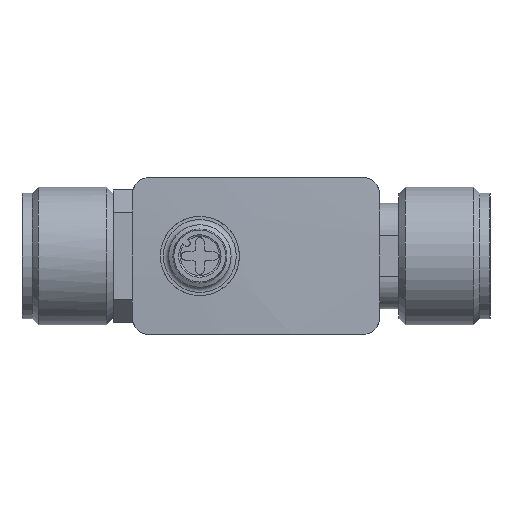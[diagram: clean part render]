
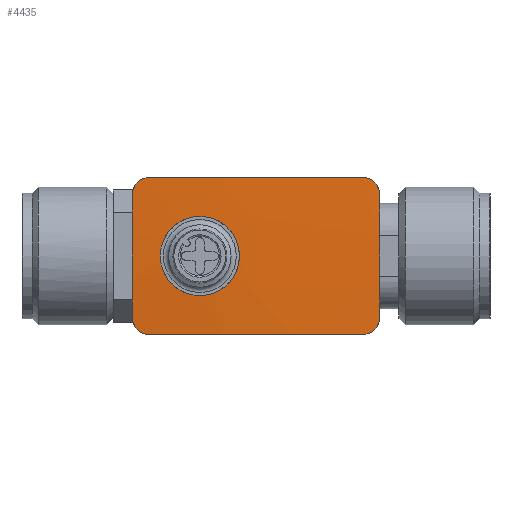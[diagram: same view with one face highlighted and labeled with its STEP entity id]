
A CAD part, front view. The second image highlights one B-rep face of the part: STEP entity #4435.
In plain terms, the highlighted spherical face has radius 382.183 mm.
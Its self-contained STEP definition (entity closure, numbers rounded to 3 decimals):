
#27=SPHERICAL_SURFACE('',#4793,382.183);
#50=B_SPLINE_CURVE_WITH_KNOTS('',3,(#7045,#7046,#7047,#7048,#7049),
 .UNSPECIFIED.,.F.,.F.,(4,1,4),(0.,0.003,
0.005),.UNSPECIFIED.);
#51=B_SPLINE_CURVE_WITH_KNOTS('',3,(#7054,#7055,#7056,#7057,#7058),
 .UNSPECIFIED.,.F.,.F.,(4,1,4),(0.,0.003,
0.005),.UNSPECIFIED.);
#52=B_SPLINE_CURVE_WITH_KNOTS('',3,(#7062,#7063,#7064,#7065,#7066),
 .UNSPECIFIED.,.F.,.F.,(4,1,4),(0.,0.003,
0.005),.UNSPECIFIED.);
#53=B_SPLINE_CURVE_WITH_KNOTS('',3,(#7070,#7071,#7072,#7073,#7074),
 .UNSPECIFIED.,.F.,.F.,(4,1,4),(0.,0.003,
0.005),.UNSPECIFIED.);
#54=B_SPLINE_CURVE_WITH_KNOTS('',3,(#7077,#7078,#7079,#7080,#7081,#7082,
#7083,#7084,#7085,#7086,#7087,#7088,#7089,#7090,#7091,#7092,#7093,#7094,
#7095),.UNSPECIFIED.,.T.,.F.,(1,1,1,1,1,1,1,1,1,1,1,1,1,1,1,1,1,1,1,1,1,
1,1),(-0.009,-0.006,-0.003,0.,
0.003,0.006,0.009,0.012,
0.015,0.018,0.021,0.024,
0.027,0.03,0.033,0.036,
0.039,0.042,0.045,0.048,
0.05,0.053,0.056),.UNSPECIFIED.);
#261=CIRCLE('',#4794,381.445);
#262=CIRCLE('',#4795,381.885);
#263=CIRCLE('',#4796,381.438);
#264=CIRCLE('',#4797,381.885);
#600=ORIENTED_EDGE('',*,*,#1900,.F.);
#601=ORIENTED_EDGE('',*,*,#1901,.T.);
#602=ORIENTED_EDGE('',*,*,#1902,.F.);
#603=ORIENTED_EDGE('',*,*,#1903,.T.);
#604=ORIENTED_EDGE('',*,*,#1904,.F.);
#605=ORIENTED_EDGE('',*,*,#1905,.T.);
#606=ORIENTED_EDGE('',*,*,#1906,.F.);
#607=ORIENTED_EDGE('',*,*,#1907,.T.);
#608=ORIENTED_EDGE('',*,*,#1908,.T.);
#1900=EDGE_CURVE('',#2546,#2547,#50,.T.);
#1901=EDGE_CURVE('',#2546,#2548,#261,.T.);
#1902=EDGE_CURVE('',#2549,#2548,#51,.T.);
#1903=EDGE_CURVE('',#2549,#2550,#262,.T.);
#1904=EDGE_CURVE('',#2551,#2550,#52,.T.);
#1905=EDGE_CURVE('',#2551,#2552,#263,.T.);
#1906=EDGE_CURVE('',#2553,#2552,#53,.T.);
#1907=EDGE_CURVE('',#2553,#2547,#264,.T.);
#1908=EDGE_CURVE('',#2554,#2554,#54,.T.);
#2546=VERTEX_POINT('',#7050);
#2547=VERTEX_POINT('',#7051);
#2548=VERTEX_POINT('',#7053);
#2549=VERTEX_POINT('',#7059);
#2550=VERTEX_POINT('',#7061);
#2551=VERTEX_POINT('',#7067);
#2552=VERTEX_POINT('',#7069);
#2553=VERTEX_POINT('',#7075);
#2554=VERTEX_POINT('',#7096);
#3624=EDGE_LOOP('',(#600,#601,#602,#603,#604,#605,#606,#607));
#3625=EDGE_LOOP('',(#608));
#3957=FACE_BOUND('',#3624,.T.);
#3958=FACE_BOUND('',#3625,.T.);
#4435=ADVANCED_FACE('',(#3957,#3958),#27,.T.);
#4793=AXIS2_PLACEMENT_3D('',#7044,#5506,#5507);
#4794=AXIS2_PLACEMENT_3D('',#7052,#5508,#5509);
#4795=AXIS2_PLACEMENT_3D('',#7060,#5510,#5511);
#4796=AXIS2_PLACEMENT_3D('',#7068,#5512,#5513);
#4797=AXIS2_PLACEMENT_3D('',#7076,#5514,#5515);
#5506=DIRECTION('',(-1.,0.,0.));
#5507=DIRECTION('',(0.,-1.,0.));
#5508=DIRECTION('',(-1.,0.,0.));
#5509=DIRECTION('',(0.,0.,1.));
#5510=DIRECTION('',(0.,0.,-1.));
#5511=DIRECTION('',(-1.,0.,0.));
#5512=DIRECTION('',(1.,0.,0.));
#5513=DIRECTION('',(0.,0.,-1.));
#5514=DIRECTION('',(0.,0.,1.));
#5515=DIRECTION('',(1.,0.,0.));
#7044=CARTESIAN_POINT('',(23.859,393.433,0.));
#7045=CARTESIAN_POINT('',(47.6,12.171,-11.8));
#7046=CARTESIAN_POINT('',(47.6,12.198,-12.672));
#7047=CARTESIAN_POINT('',(46.882,12.212,-14.381));
#7048=CARTESIAN_POINT('',(45.171,12.143,-15.1));
#7049=CARTESIAN_POINT('',(44.3,12.096,-15.1));
#7050=CARTESIAN_POINT('',(47.6,12.171,-11.8));
#7051=CARTESIAN_POINT('',(44.3,12.096,-15.1));
#7052=CARTESIAN_POINT('',(47.6,393.433,0.));
#7053=CARTESIAN_POINT('',(47.6,12.171,11.8));
#7054=CARTESIAN_POINT('',(44.3,12.096,15.1));
#7055=CARTESIAN_POINT('',(45.171,12.143,15.1));
#7056=CARTESIAN_POINT('',(46.879,12.212,14.384));
#7057=CARTESIAN_POINT('',(47.6,12.198,12.672));
#7058=CARTESIAN_POINT('',(47.6,12.171,11.8));
#7059=CARTESIAN_POINT('',(44.3,12.096,15.1));
#7060=CARTESIAN_POINT('',(23.859,393.433,15.1));
#7061=CARTESIAN_POINT('',(3.3,12.102,15.1));
#7062=CARTESIAN_POINT('',(0.,12.178,11.8));
#7063=CARTESIAN_POINT('',(0.,12.205,12.672));
#7064=CARTESIAN_POINT('',(0.718,12.219,14.381));
#7065=CARTESIAN_POINT('',(2.429,12.149,15.1));
#7066=CARTESIAN_POINT('',(3.3,12.102,15.1));
#7067=CARTESIAN_POINT('',(0.,12.178,11.8));
#7068=CARTESIAN_POINT('',(0.,393.433,0.));
#7069=CARTESIAN_POINT('',(0.,12.178,-11.8));
#7070=CARTESIAN_POINT('',(3.3,12.102,-15.1));
#7071=CARTESIAN_POINT('',(2.429,12.149,-15.1));
#7072=CARTESIAN_POINT('',(0.721,12.219,-14.384));
#7073=CARTESIAN_POINT('',(0.,12.205,-12.672));
#7074=CARTESIAN_POINT('',(0.,12.178,-11.8));
#7075=CARTESIAN_POINT('',(3.3,12.102,-15.1));
#7076=CARTESIAN_POINT('',(23.859,393.433,-15.1));
#7077=CARTESIAN_POINT('',(10.023,11.565,-7.208));
#7078=CARTESIAN_POINT('',(7.481,11.637,-5.51));
#7079=CARTESIAN_POINT('',(5.794,11.685,-2.979));
#7080=CARTESIAN_POINT('',(5.202,11.702,0.006));
#7081=CARTESIAN_POINT('',(5.797,11.685,2.987));
#7082=CARTESIAN_POINT('',(7.487,11.637,5.515));
#7083=CARTESIAN_POINT('',(10.015,11.565,7.204));
#7084=CARTESIAN_POINT('',(13.001,11.48,7.798));
#7085=CARTESIAN_POINT('',(15.987,11.395,7.203));
#7086=CARTESIAN_POINT('',(18.515,11.323,5.513));
#7087=CARTESIAN_POINT('',(20.204,11.275,2.985));
#7088=CARTESIAN_POINT('',(20.798,11.258,0.003));
#7089=CARTESIAN_POINT('',(20.206,11.275,-2.98));
#7090=CARTESIAN_POINT('',(18.516,11.323,-5.512));
#7091=CARTESIAN_POINT('',(15.984,11.395,-7.205));
#7092=CARTESIAN_POINT('',(13.001,11.48,-7.797));
#7093=CARTESIAN_POINT('',(10.023,11.565,-7.208));
#7094=CARTESIAN_POINT('',(7.481,11.637,-5.51));
#7095=CARTESIAN_POINT('',(5.794,11.685,-2.979));
#7096=CARTESIAN_POINT('',(7.623,11.633,-5.371));
